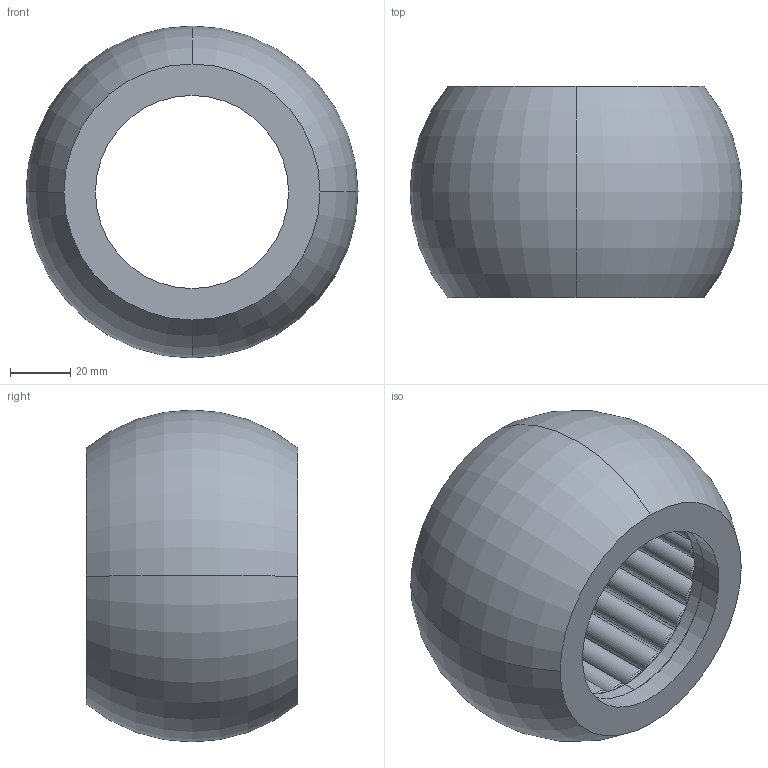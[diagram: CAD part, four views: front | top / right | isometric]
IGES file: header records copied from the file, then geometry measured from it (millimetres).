
Start section: 3D InterOp IGES (Version 20 0 1), Spatial Corp. Copyright (c) 1999-2007.
Global section: file name: 15.xx.64.igs; native system: Spatial Corp.; preprocessor: 3D InterOp GENERIC/IGES 3.0; author: Noname; organization: Noname; date: 20111114.154619; units: metre
Bounding box: 110 x 70 x 110 mm (x, y, z)
Surface area: 123358.1 mm2 (no closed solid volume)
Topology: 0 solids, 0 shells, 590 faces, 2464 edges, 2464 vertices
Faces by surface type: revolution 478, extrusion 112
